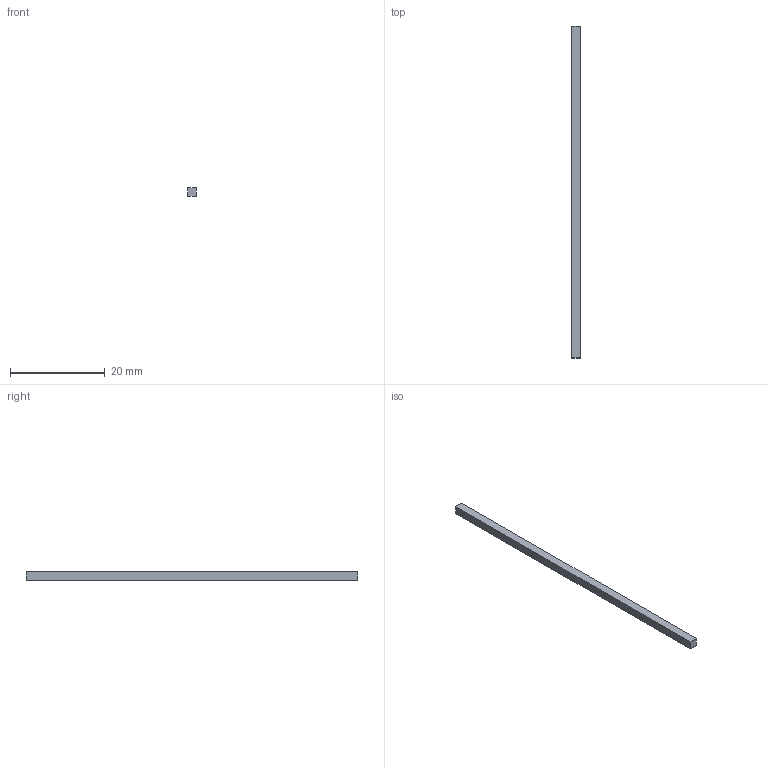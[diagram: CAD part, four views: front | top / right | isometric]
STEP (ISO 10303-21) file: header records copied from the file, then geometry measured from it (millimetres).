
FILE_DESCRIPTION(('Open CASCADE Model'),'2;1');
FILE_NAME('Open CASCADE Shape Model','2026-09-08T13:32:07',('Author'),( 'Open CASCADE'),'Open CASCADE STEP processor 7.7','Open CASCADE 7.7' ,'Unknown');
FILE_SCHEMA(('AUTOMOTIVE_DESIGN { 1 0 10303 214 1 1 1 1 }'));
Length unit declared in the file: millimetre
Products named in the file (1): Open CASCADE STEP translator 7.7 26
Bounding box: 1.8 x 70 x 1.8 mm (x, y, z)
Volume: 226.8 mm3; surface area: 510.5 mm2
Topology: 1 solids, 1 shells, 6 faces, 12 edges, 8 vertices
Faces by surface type: plane 6
Entity records: 322 total; most frequent: CARTESIAN_POINT 51, DIRECTION 50, LINE 36, VECTOR 36, ORIENTED_EDGE 24, PCURVE 24, DEFINITIONAL_REPRESENTATION 24, EDGE_CURVE 12
